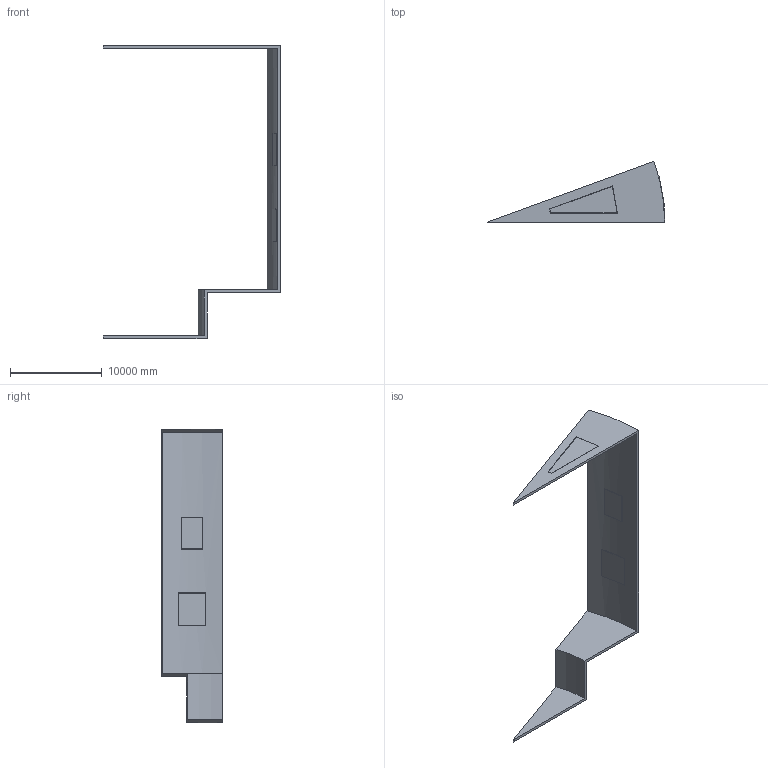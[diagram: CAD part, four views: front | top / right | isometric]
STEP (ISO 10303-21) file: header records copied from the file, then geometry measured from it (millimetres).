
FILE_DESCRIPTION(('FreeCAD Model'),'2;1');
FILE_NAME('Open CASCADE Shape Model','2026-10-11T08:37:00',('Bluemira'), ('Bluemira'),'Open CASCADE STEP processor 7.8','FreeCAD','Unknown');
FILE_SCHEMA(('AP242_MANAGED_MODEL_BASED_3D_ENGINEERING_MIM_LF. {1 0 10303 442 1 1 4 }'));
Length unit declared in the file: metre
Products named in the file (5): Unnamed; Cryostat_VV_1_1; CryostatPortPlug_0_1; CryostatPortPlug_1_1; CryostatPortPlug_2_1
Assembly tree (4 placements, depth 2):
  Unnamed
    Cryostat_VV_1_1
    CryostatPortPlug_0_1
    CryostatPortPlug_1_1
    CryostatPortPlug_2_1
Bounding box: 19315.26 x 6605.6 x 31920.09 mm (x, y, z)
Volume: 98951465317.8 mm3; surface area: 736272256 mm2
Topology: 4 solids, 4 shells, 72 faces, 178 edges, 120 vertices
Faces by surface type: plane 68, cylinder 4
Entity records: 4518 total; most frequent: CARTESIAN_POINT 783, DIRECTION 686, LINE 478, VECTOR 478, ORIENTED_EDGE 356, PCURVE 356, DEFINITIONAL_REPRESENTATION 356, EDGE_CURVE 178
